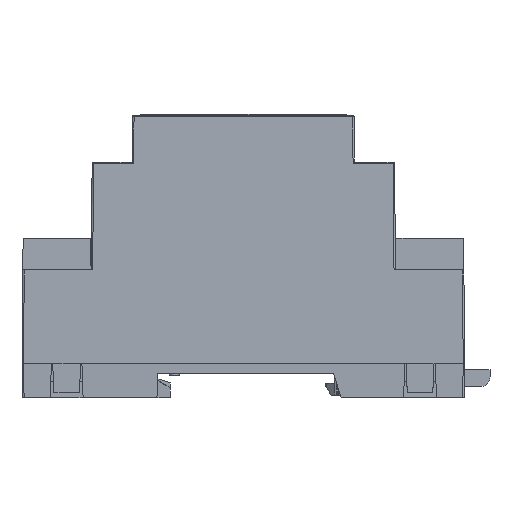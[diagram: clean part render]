
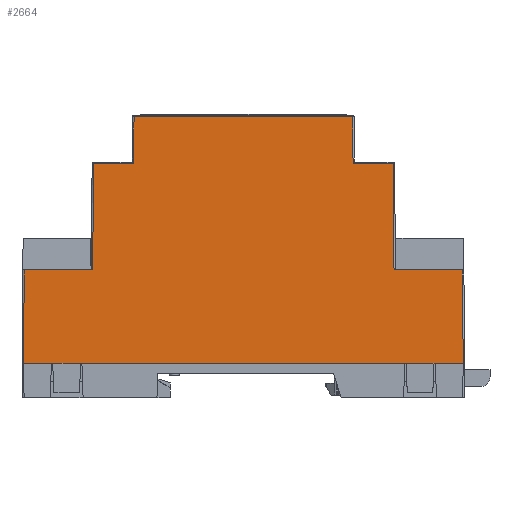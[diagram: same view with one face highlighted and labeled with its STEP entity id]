
A CAD part, front view. The second image highlights one B-rep face of the part: STEP entity #2664.
In plain terms, the highlighted planar face has unit normal (0, -1, 0.009) as drawn and (0, -1, -0.009) by its records, which use the part's own axes.
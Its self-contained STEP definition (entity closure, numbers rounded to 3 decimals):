
#2664=ADVANCED_FACE('',(#26887),#26889,.F.);
#26887=FACE_BOUND('',#26888,.T.);
#26888=EDGE_LOOP('',(#45705,#45706,#45707,#45708,#45709,#45710,#45711,#45712,#45713,
#45714,#45715,#45716,#45717,#45718,#45719,#45720));
#26889=PLANE('',#26890);
#26890=AXIS2_PLACEMENT_3D('',#26891,#26892,#26893);
#26891=CARTESIAN_POINT('',(-29620.292,-26788.888,-41.977));
#26892=DIRECTION('',(0.,1.,0.009));
#26893=DIRECTION('',(0.,-0.009,1.));
#45705=ORIENTED_EDGE('',*,*,#63790,.F.);
#45706=ORIENTED_EDGE('',*,*,#63678,.F.);
#45707=ORIENTED_EDGE('',*,*,#63695,.F.);
#45708=ORIENTED_EDGE('',*,*,#63677,.F.);
#45709=ORIENTED_EDGE('',*,*,#63791,.F.);
#45710=ORIENTED_EDGE('',*,*,#63743,.F.);
#45711=ORIENTED_EDGE('',*,*,#63741,.F.);
#45712=ORIENTED_EDGE('',*,*,#63676,.F.);
#45713=ORIENTED_EDGE('',*,*,#63672,.F.);
#45714=ORIENTED_EDGE('',*,*,#63670,.F.);
#45715=ORIENTED_EDGE('',*,*,#63667,.F.);
#45716=ORIENTED_EDGE('',*,*,#63663,.F.);
#45717=ORIENTED_EDGE('',*,*,#63662,.F.);
#45718=ORIENTED_EDGE('',*,*,#63658,.F.);
#45719=ORIENTED_EDGE('',*,*,#63692,.F.);
#45720=ORIENTED_EDGE('',*,*,#63680,.F.);
#63658=EDGE_CURVE('',#71776,#71421,#71779,.T.);
#63662=EDGE_CURVE('',#71421,#71782,#71785,.T.);
#63663=EDGE_CURVE('',#71782,#71427,#71786,.T.);
#63667=EDGE_CURVE('',#71427,#71214,#71791,.T.);
#63670=EDGE_CURVE('',#71214,#71796,#71797,.T.);
#63672=EDGE_CURVE('',#71796,#71206,#71799,.T.);
#63676=EDGE_CURVE('',#71206,#71802,#71805,.T.);
#63677=EDGE_CURVE('',#71502,#71512,#71806,.T.);
#63678=EDGE_CURVE('',#71494,#71489,#71807,.T.);
#63680=EDGE_CURVE('',#71809,#71811,#71812,.T.);
#63692=EDGE_CURVE('',#71811,#71776,#71829,.T.);
#63695=EDGE_CURVE('',#71512,#71494,#71832,.T.);
#63741=EDGE_CURVE('',#71802,#71899,#71900,.T.);
#63743=EDGE_CURVE('',#71899,#71902,#71903,.T.);
#63790=EDGE_CURVE('',#71489,#71809,#71976,.T.);
#63791=EDGE_CURVE('',#71902,#71502,#71977,.T.);
#71206=VERTEX_POINT('',#84590);
#71214=VERTEX_POINT('',#84610);
#71421=VERTEX_POINT('',#85072);
#71427=VERTEX_POINT('',#85087);
#71489=VERTEX_POINT('',#85229);
#71494=VERTEX_POINT('',#85239);
#71502=VERTEX_POINT('',#85256);
#71512=VERTEX_POINT('',#85277);
#71776=VERTEX_POINT('',#85881);
#71779=LINE('',#85887,#85888);
#71782=VERTEX_POINT('',#85894);
#71785=LINE('',#85902,#85903);
#71786=LINE('',#85905,#85906);
#71791=LINE('',#85918,#85919);
#71796=VERTEX_POINT('',#85929);
#71797=LINE('',#85930,#85931);
#71799=LINE('',#85937,#85938);
#71802=VERTEX_POINT('',#85944);
#71805=LINE('',#85952,#85953);
#71806=LINE('',#85955,#85956);
#71807=LINE('',#85958,#85959);
#71809=VERTEX_POINT('',#85962);
#71811=VERTEX_POINT('',#85967);
#71812=LINE('',#85968,#85969);
#71829=LINE('',#86010,#86011);
#71832=LINE('',#86017,#86018);
#71899=VERTEX_POINT('',#86173);
#71900=LINE('',#86174,#86175);
#71902=VERTEX_POINT('',#86181);
#71903=LINE('',#86182,#86183);
#71976=LINE('',#86348,#86349);
#71977=LINE('',#86351,#86352);
#84590=CARTESIAN_POINT('',(-29615.903,-26789.226,-3.19));
#84610=CARTESIAN_POINT('',(-29607.662,-26789.143,-12.69));
#85072=CARTESIAN_POINT('',(-29554.881,-26789.226,-3.19));
#85087=CARTESIAN_POINT('',(-29563.122,-26789.143,-12.69));
#85229=CARTESIAN_POINT('',(-29546.542,-26789.581,37.513));
#85239=CARTESIAN_POINT('',(-29552.242,-26789.581,37.513));
#85256=CARTESIAN_POINT('',(-29624.242,-26789.581,37.513));
#85277=CARTESIAN_POINT('',(-29618.542,-26789.581,37.513));
#85881=CARTESIAN_POINT('',(-29554.692,-26789.416,18.513));
#85887=CARTESIAN_POINT('',(-29554.692,-26789.416,18.513));
#85888=VECTOR('',#85889,1.);
#85889=DIRECTION('',(-0.009,0.009,-1.));
#85894=CARTESIAN_POINT('',(-29563.039,-26789.226,-3.19));
#85902=CARTESIAN_POINT('',(-29554.881,-26789.226,-3.19));
#85903=VECTOR('',#85904,1.);
#85904=DIRECTION('',(-1.,0.,0.));
#85905=CARTESIAN_POINT('',(-29563.039,-26789.226,-3.19));
#85906=VECTOR('',#85907,1.);
#85907=DIRECTION('',(-0.009,0.009,-1.));
#85918=CARTESIAN_POINT('',(-29563.122,-26789.143,-12.69));
#85919=VECTOR('',#85920,1.);
#85920=DIRECTION('',(-1.,0.,0.));
#85929=CARTESIAN_POINT('',(-29607.745,-26789.226,-3.19));
#85930=CARTESIAN_POINT('',(-29607.662,-26789.143,-12.69));
#85931=VECTOR('',#85932,1.);
#85932=DIRECTION('',(-0.009,-0.009,1.));
#85937=CARTESIAN_POINT('',(-29607.745,-26789.226,-3.19));
#85938=VECTOR('',#85939,1.);
#85939=DIRECTION('',(-1.,0.,0.));
#85944=CARTESIAN_POINT('',(-29616.092,-26789.416,18.513));
#85952=CARTESIAN_POINT('',(-29615.903,-26789.226,-3.19));
#85953=VECTOR('',#85954,1.);
#85954=DIRECTION('',(-0.009,-0.009,1.));
#85955=CARTESIAN_POINT('',(-29624.242,-26789.581,37.513));
#85956=VECTOR('',#85957,1.);
#85957=DIRECTION('',(1.,0.,0.));
#85958=CARTESIAN_POINT('',(-29552.242,-26789.581,37.513));
#85959=VECTOR('',#85960,1.);
#85960=DIRECTION('',(1.,0.,0.));
#85962=CARTESIAN_POINT('',(-29540.592,-26789.581,37.513));
#85967=CARTESIAN_POINT('',(-29540.758,-26789.416,18.513));
#85968=CARTESIAN_POINT('',(-29540.592,-26789.581,37.513));
#85969=VECTOR('',#85970,1.);
#85970=DIRECTION('',(-0.009,0.009,-1.));
#86010=CARTESIAN_POINT('',(-29540.758,-26789.416,18.513));
#86011=VECTOR('',#86012,1.);
#86012=DIRECTION('',(-1.,0.,0.));
#86017=CARTESIAN_POINT('',(-29618.542,-26789.581,37.513));
#86018=VECTOR('',#86019,1.);
#86019=DIRECTION('',(1.,0.,0.));
#86173=CARTESIAN_POINT('',(-29630.026,-26789.416,18.513));
#86174=CARTESIAN_POINT('',(-29616.092,-26789.416,18.513));
#86175=VECTOR('',#86176,1.);
#86176=DIRECTION('',(-1.,0.,0.));
#86181=CARTESIAN_POINT('',(-29630.192,-26789.581,37.513));
#86182=CARTESIAN_POINT('',(-29630.026,-26789.416,18.513));
#86183=VECTOR('',#86184,1.);
#86184=DIRECTION('',(-0.009,-0.009,1.));
#86348=CARTESIAN_POINT('',(-29546.542,-26789.581,37.513));
#86349=VECTOR('',#86350,1.);
#86350=DIRECTION('',(1.,0.,0.));
#86351=CARTESIAN_POINT('',(-29630.192,-26789.581,37.513));
#86352=VECTOR('',#86353,1.);
#86353=DIRECTION('',(1.,0.,0.));
